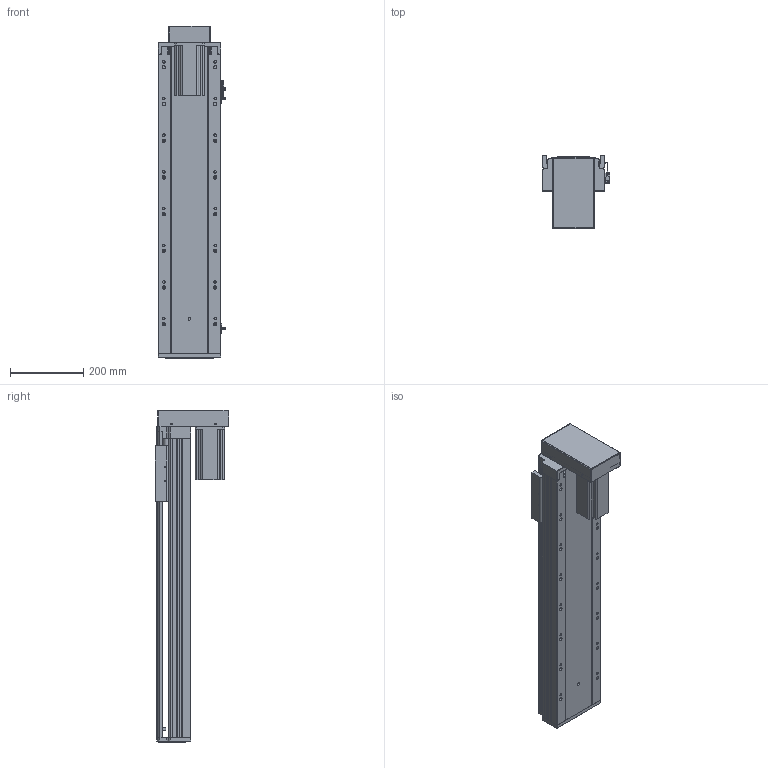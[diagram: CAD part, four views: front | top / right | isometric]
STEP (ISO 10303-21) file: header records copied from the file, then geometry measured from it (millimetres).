
FILE_DESCRIPTION (( 'STEP AP203' ), '1' );
FILE_NAME ('RY170-L2510-300-BK.SLDASM_600.step', '2021-03-12T08:58:03', ( '盈信电脑' ), ( '东莞市道滘镇水果街19号' ), 'SwSTEP 2.0', 'SolidWorks 2012', '' );
FILE_SCHEMA (( 'CONFIG_CONTROL_DESIGN' ));
Length unit declared in the file: millimetre
Products named in the file (14): RY170-L2510-300-BK.SLDASM_600; RY170狟殏萇儂欶; RY170-狟殏750W萇儂傷; RY170-狟殏萇儂假蚾啣; 怢湛750W萇儂ㄗ80遺ㄘ; RY170外置感应片(200共用）; 滅袉蝶18-20; RY170转折电机端支撑座(7004); 滅袉蝶18-10; 覜茼ん672; RY170-300倰第裔啣-BK_600; RY170綴裔啣; RY170-300倰第菁釱-BK_600; 改造-RY170铝滑块25丝杆螺母
Assembly tree (15 placements, depth 3):
  RY170-L2510-300-BK.SLDASM_600
    RY170-300倰第菁釱-BK_600
    改造-RY170铝滑块25丝杆螺母
    RY170-300倰第裔啣-BK_600
    RY170綴裔啣
    覜茼ん672  x3
    RY170外置感应片(200共用）
    滅袉蝶18-20
    滅袉蝶18-10
    RY170转折电机端支撑座(7004)
    RY170-狟殏750W萇儂傷
      RY170-狟殏萇儂假蚾啣
      RY170狟殏萇儂欶
      怢湛750W萇儂ㄗ80遺ㄘ
Bounding box: 183.7 x 200.8 x 904.5 mm (x, y, z)
Volume: 5515194.9 mm3; surface area: 1647414.5 mm2
Topology: 14 solids, 14 shells, 2136 faces, 6157 edges, 3968 vertices
Faces by surface type: plane 1082, cylinder 877, cone 158, bspline 19
Entity records: 69586 total; most frequent: CARTESIAN_POINT 16918, ORIENTED_EDGE 11090, DIRECTION 10159, EDGE_CURVE 5545, VERTEX_POINT 3648, VECTOR 3425, LINE 3425, AXIS2_PLACEMENT_3D 3367
